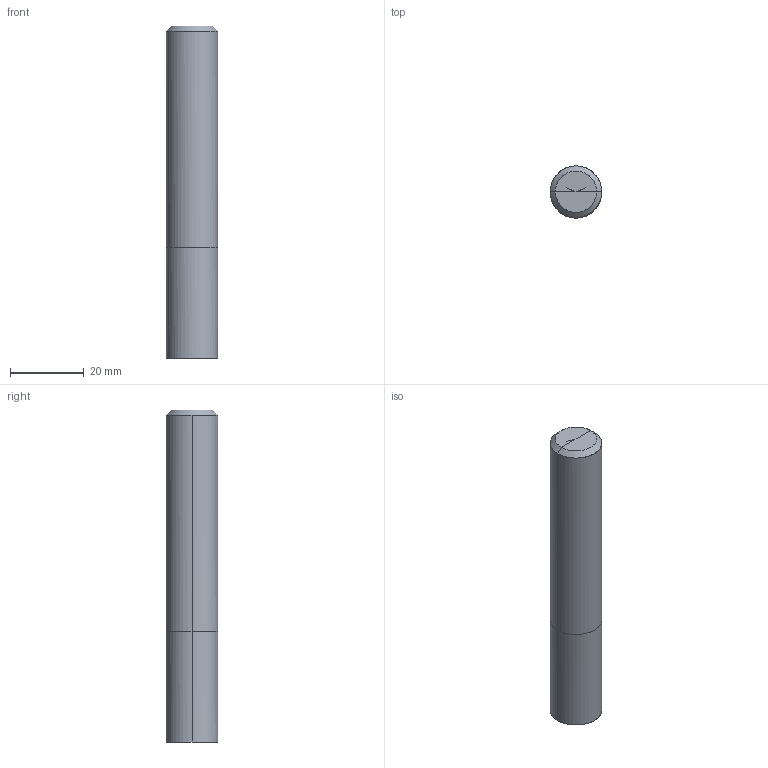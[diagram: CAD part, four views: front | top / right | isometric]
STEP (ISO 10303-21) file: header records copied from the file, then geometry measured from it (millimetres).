
FILE_DESCRIPTION(/* description */ (''),/* implementation_level */ '2;1');
FILE_NAME(/*name*/ '2041-14',/*time_stamp*/'2021-3-24T13:52:25',/*author*/ ('ISBE GmbH'),/*organization*/ ('ISBE GmbH'),/*preprocessor_version*/ 'STEP IO v1.0',/*originating_system*/ '',/*authorisation*/ '');
FILE_SCHEMA (('AUTOMOTIVE_DESIGN'));
Length unit declared in the file: millimetre
Products named in the file (1): Document
Bounding box: 14 x 14 x 90 mm (x, y, z)
Surface area: 4541.9 mm2 (no closed solid volume)
Topology: 0 solids, 14 shells, 14 faces, 58 edges, 52 vertices
Faces by surface type: bspline 14
Entity records: 1007 total; most frequent: CARTESIAN_POINT 742, VERTEX_POINT 48, EDGE_CURVE 48, ORIENTED_EDGE 48, DIRECTION 16, EDGE_LOOP 14, FACE_OUTER_BOUND 14, ADVANCED_FACE 14
